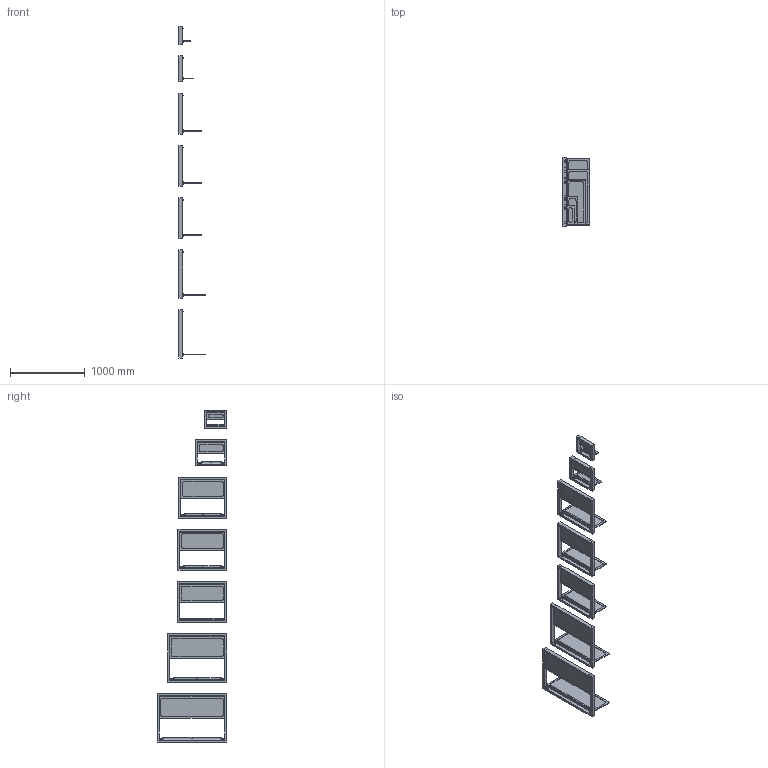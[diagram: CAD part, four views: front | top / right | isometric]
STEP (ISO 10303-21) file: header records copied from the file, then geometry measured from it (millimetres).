
FILE_DESCRIPTION (( 'STEP AP214' ), '1' );
FILE_NAME ('B40_KH303_Assembly.STEP', '2021-08-05T09:07:54', ( '' ), ( '' ), 'SwSTEP 2.0', 'SolidWorks 2020', '' );
FILE_SCHEMA (( 'AUTOMOTIVE_DESIGN' ));
Length unit declared in the file: millimetre
Products named in the file (39): B40_KH303_1_Pin; B40_KH303_6_B; B40_KH303_Washer; B40_KH303_1_Assembly [PC]; B40_KH303_6_Assembly [PO]; B40_KH303_2_Pin; B40_KH303_5_B; B40_KH303_3_Door; B40_KH303_7_Assembly [PC]; B40_KH303_Frame; B40_KH303_7_Assembly [PO]; B40_KH303_4_Door; B40_KH303_4_Pin; B40_KH303_1_Door; B40_KH303_Assembly; B40_KH303_1_Assembly [PO]; B40_KH303_6_Assembly [PC]; B40_KH303_3_Assembly [PC]; B40_KH303_7_Door; B40_KH303_2_Door; B40_KH303_2_Assembly [PC]; B40_KH303_4_Assembly [PO]; B40_KH303_5_Pin; B40_KH303_3_Pin; B40_KH303_1_B; B40_KH303_6_Pin; B40_KH303_6_Door; B40_KH303_2_B; B40_KH303_7_B; B40_KH303_A; B40_KH303_5_Door; B40_KH303_5_Assembly [PC]; B40_KH303_2_Assembly [PO]; B40_KH303_3_Assembly [PO]; B40_KH303_3_B; B40_KH303_5_Assembly [PO]; B40_KH303_4_Assembly [PC]; B40_KH303_7_Pin; B40_KH303_4_B
Assembly tree (113 placements, depth 3):
  B40_KH303_Assembly
    B40_KH303_Frame
    B40_KH303_1_Assembly [PO]
      B40_KH303_1_B
      B40_KH303_Washer  x2
      B40_KH303_A  x2
      B40_KH303_1_Pin
    B40_KH303_1_Assembly [PC]
      B40_KH303_1_B
      B40_KH303_Washer  x2
      B40_KH303_A  x2
      B40_KH303_1_Pin
    B40_KH303_2_Assembly [PO]
      B40_KH303_2_B
      B40_KH303_Washer  x2
      B40_KH303_A  x2
      B40_KH303_2_Pin
    B40_KH303_2_Assembly [PC]
      B40_KH303_2_B
      B40_KH303_Washer  x2
      B40_KH303_A  x2
      B40_KH303_2_Pin
    B40_KH303_3_Assembly [PO]
      B40_KH303_3_B
      B40_KH303_Washer  x2
      B40_KH303_A  x2
      B40_KH303_3_Pin
    B40_KH303_3_Assembly [PC]
      B40_KH303_3_B
      B40_KH303_Washer  x2
      B40_KH303_A  x2
      B40_KH303_3_Pin
    B40_KH303_4_Assembly [PO]
      B40_KH303_4_B
      B40_KH303_Washer  x2
      B40_KH303_A  x2
      B40_KH303_4_Pin
    B40_KH303_4_Assembly [PC]
      B40_KH303_4_B
      B40_KH303_Washer  x2
      B40_KH303_A  x2
      B40_KH303_4_Pin
    B40_KH303_5_Assembly [PO]
      B40_KH303_5_B
      B40_KH303_Washer  x2
      B40_KH303_A  x2
      B40_KH303_5_Pin
    B40_KH303_5_Assembly [PC]
      B40_KH303_5_B
      B40_KH303_Washer  x2
      B40_KH303_A  x2
      B40_KH303_5_Pin
    B40_KH303_6_Assembly [PO]
      B40_KH303_6_B
      B40_KH303_Washer  x2
      B40_KH303_A  x2
      B40_KH303_6_Pin
    B40_KH303_6_Assembly [PC]
      B40_KH303_6_B
      B40_KH303_Washer  x2
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Bounding box: 350.5 x 934 x 4450 mm (x, y, z)
Volume: 28662080.9 mm3; surface area: 7657290 mm2
Topology: 105 solids, 105 shells, 2660 faces, 6104 edges, 3696 vertices
Faces by surface type: cylinder 1232, plane 812, torus 280, cone 252, sphere 84
Entity records: 26196 total; most frequent: DIRECTION 4758, CARTESIAN_POINT 4101, ORIENTED_EDGE 3820, EDGE_CURVE 1910, AXIS2_PLACEMENT_3D 1867, VERTEX_POINT 1210, LINE 1024, VECTOR 1024
